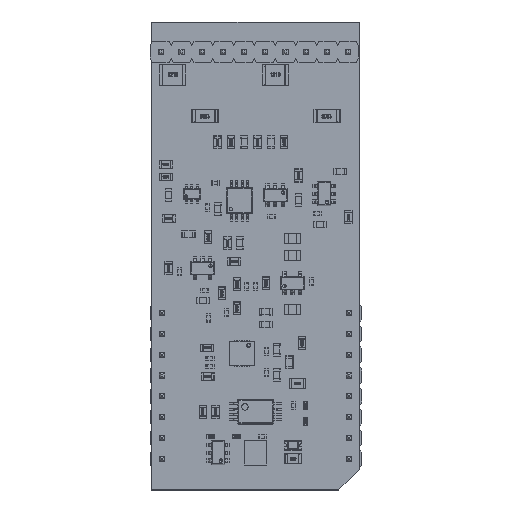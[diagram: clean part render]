
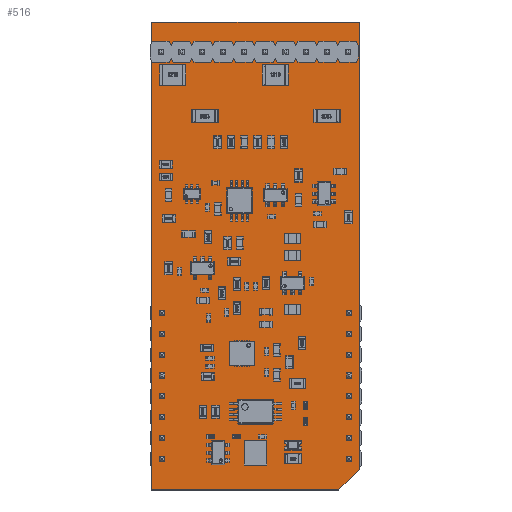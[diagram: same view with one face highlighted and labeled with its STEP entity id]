
A CAD part, top view. The second image highlights one B-rep face of the part: STEP entity #516.
In plain terms, the highlighted planar face has unit normal (0, 0, 1).
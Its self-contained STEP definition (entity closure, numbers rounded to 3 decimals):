
#355 = VERTEX_POINT('',#356);
#356 = CARTESIAN_POINT('',(-1.27,-3.81,0.));
#362 = EDGE_CURVE('',#355,#363,#365,.T.);
#363 = VERTEX_POINT('',#364);
#364 = CARTESIAN_POINT('',(21.59,-3.81,0.));
#365 = LINE('',#366,#367);
#366 = CARTESIAN_POINT('',(-1.27,-3.81,0.));
#367 = VECTOR('',#368,1.);
#368 = DIRECTION('',(1.,0.,0.));
#393 = EDGE_CURVE('',#363,#394,#396,.T.);
#394 = VERTEX_POINT('',#395);
#395 = CARTESIAN_POINT('',(24.13,-1.27,0.));
#396 = LINE('',#397,#398);
#397 = CARTESIAN_POINT('',(21.59,-3.81,0.));
#398 = VECTOR('',#399,1.);
#399 = DIRECTION('',(0.707,0.707,0.));
#424 = EDGE_CURVE('',#394,#425,#427,.T.);
#425 = VERTEX_POINT('',#426);
#426 = CARTESIAN_POINT('',(24.13,53.34,0.));
#427 = LINE('',#428,#429);
#428 = CARTESIAN_POINT('',(24.13,-1.27,0.));
#429 = VECTOR('',#430,1.);
#430 = DIRECTION('',(0.,1.,0.));
#455 = EDGE_CURVE('',#425,#456,#458,.T.);
#456 = VERTEX_POINT('',#457);
#457 = CARTESIAN_POINT('',(-1.27,53.34,0.));
#458 = LINE('',#459,#460);
#459 = CARTESIAN_POINT('',(24.13,53.34,0.));
#460 = VECTOR('',#461,1.);
#461 = DIRECTION('',(-1.,0.,0.));
#486 = EDGE_CURVE('',#456,#355,#487,.T.);
#487 = LINE('',#488,#489);
#488 = CARTESIAN_POINT('',(-1.27,53.34,0.));
#489 = VECTOR('',#490,1.);
#490 = DIRECTION('',(0.,-1.,0.));
#516 = ADVANCED_FACE('',(#517),#524,.F.);
#517 = FACE_BOUND('',#518,.T.);
#518 = EDGE_LOOP('',(#519,#520,#521,#522,#523));
#519 = ORIENTED_EDGE('',*,*,#362,.T.);
#520 = ORIENTED_EDGE('',*,*,#393,.T.);
#521 = ORIENTED_EDGE('',*,*,#424,.T.);
#522 = ORIENTED_EDGE('',*,*,#455,.T.);
#523 = ORIENTED_EDGE('',*,*,#486,.T.);
#524 = PLANE('',#525);
#525 = AXIS2_PLACEMENT_3D('',#526,#527,#528);
#526 = CARTESIAN_POINT('',(-1.27,-3.81,0.));
#527 = DIRECTION('',(0.,0.,-1.));
#528 = DIRECTION('',(-1.,0.,0.));
